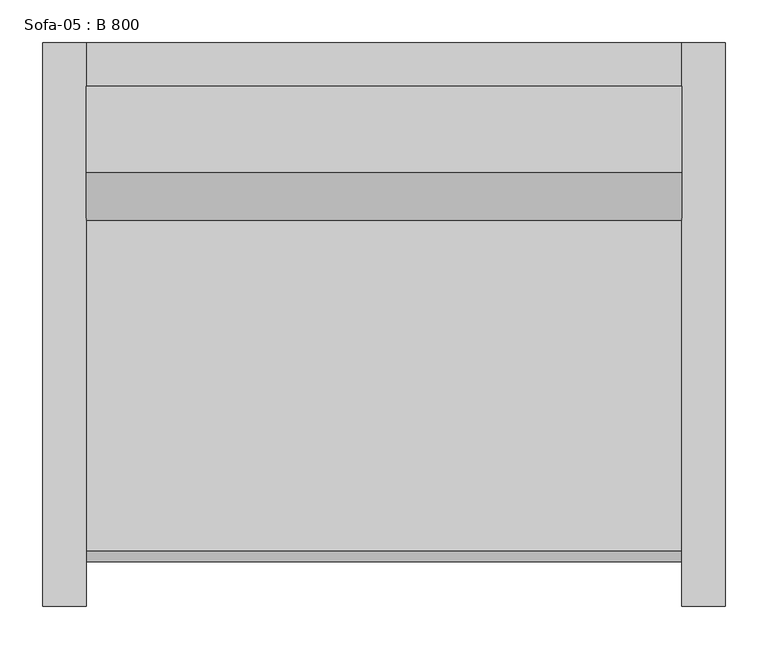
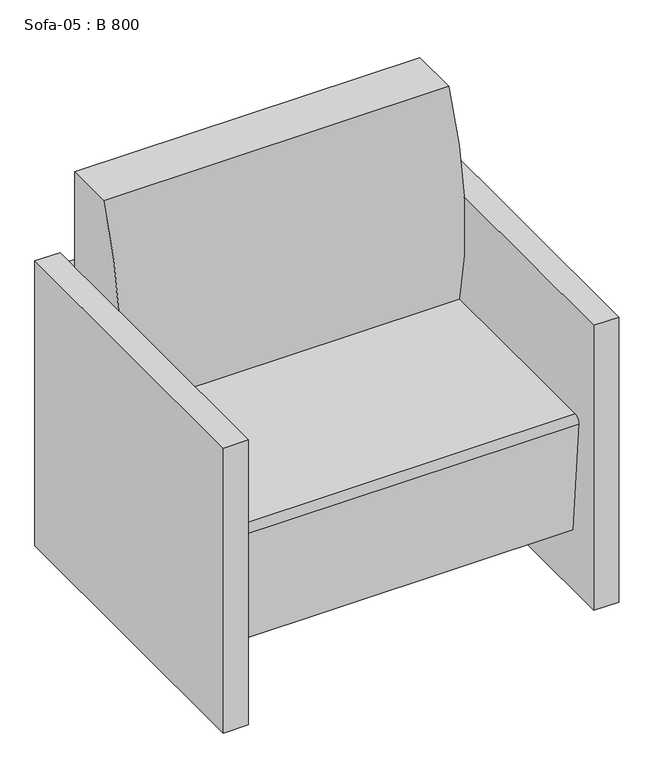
"""IFC4 building model written with IfcOpenShell, lengths in millimetres: furniture geometry, Sofa-05 : B 800."""

from ifc_helpers import new_model, si_unit, point, frame, frame_2d, origin, origin_with_axes, place, context, project, spatial, polyline, circle_curve, trimmed, segment, composite_curve, outline, extrude, source, transform, mapped, element, save


def sofa_05_b_800_2b4523ea(model_context):
    return source(origin(), model_context, "Body", "SweptSolid", [
        extrude(outline(composite_curve([segment(trimmed(circle_curve(frame_2d((926.517198, 542.5300036)), 660.4), [point((286.1764935, 381.0))], [point((323.9540984, 812.8))], False, "CARTESIAN"), True, "CONTINUOUS"), segment(polyline([(323.9540984, 812.8), (425.5540984, 812.8), (425.5540984, 127.9665467), (-111.108343, 127.9665467), (-132.0379563, 367.1931221)]), True, "CONTINUOUS"), segment(trimmed(circle_curve(frame_2d((-119.3862837, 368.3)), 12.7), [point((-132.0379563, 367.1931221))], [point((-119.3862837, 381.0))], False, "CARTESIAN"), True, "CONTINUOUS"), segment(polyline([(-119.3862837, 381.0), (286.1764935, 381.0)]), True, "CONTINUOUS")], self_intersect=False)), frame((-278.8295082, 0.0, 0.0), z_axis=(1.0, 0.0, 0.0), x_axis=(0.0, 1.0, 0.0)), (0.0, 0.0, 1.0), 698.4),
        extrude(outline(polyline([(-329.6295082, 476.3540984), (-278.8295082, 476.3540984), (-278.8295082, -184.0459016), (-329.6295082, -184.0459016), (-329.6295082, 476.3540984)])), origin_with_axes(), (0.0, 0.0, 1.0), 609.6),
        extrude(outline(polyline([(470.3704918, 476.3540984), (470.3704918, -184.0459016), (419.5704918, -184.0459016), (419.5704918, 476.3540984), (470.3704918, 476.3540984)])), origin_with_axes(), (0.0, 0.0, 1.0), 609.6),
        extrude(outline(polyline([(-278.8295082, 425.5540984), (-278.8295082, 476.3540984), (419.5704918, 476.3540984), (419.5704918, 425.5540984), (-278.8295082, 425.5540984)])), frame((0.0, 0.0, 457.2), z_axis=(0.0, 0.0, 1.0), x_axis=(1.0, 0.0, 0.0)), (0.0, 0.0, 1.0), 127.0),
        extrude(outline(polyline([(-278.8295082, 425.5540984), (-278.8295082, 476.3540984), (419.5704918, 476.3540984), (419.5704918, 425.5540984), (-278.8295082, 425.5540984)])), frame((0.0, 0.0, 266.7), z_axis=(0.0, 0.0, 1.0), x_axis=(1.0, 0.0, 0.0)), (0.0, 0.0, 1.0), 127.0),
        extrude(outline(polyline([(-278.8295082, 425.5540984), (-278.8295082, 476.3540984), (419.5704918, 476.3540984), (419.5704918, 425.5540984), (-278.8295082, 425.5540984)])), frame((0.0, 0.0, 76.2), z_axis=(0.0, 0.0, 1.0), x_axis=(1.0, 0.0, 0.0)), (0.0, 0.0, 1.0), 127.0),
    ])


if __name__ == "__main__":
    model = new_model("IFC4")
    model_context = context("Model", 3, world=origin())
    ifc_project = project(units=[si_unit("LENGTHUNIT", "METRE", prefix="MILLI")], contexts=[model_context])
    site = spatial("IfcSite", under=ifc_project)
    building = spatial("IfcBuilding", under=site)
    placement = place(None, origin())
    sofa_05_b_800_shape = sofa_05_b_800_2b4523ea(model_context)
    element("IfcFurniture", 1, ObjectType="Sofa-05 : B 800", at=placement, inside=building, context=model_context, shape_type="MappedRepresentation", body=[
        mapped(sofa_05_b_800_shape, transform((0.0, 0.0, 0.0), x_axis=(1.0, 0.0, 0.0), y_axis=(0.0, 1.0, 0.0), z_axis=(0.0, 0.0, 1.0))),
    ])
    save(model, "model.ifc")
